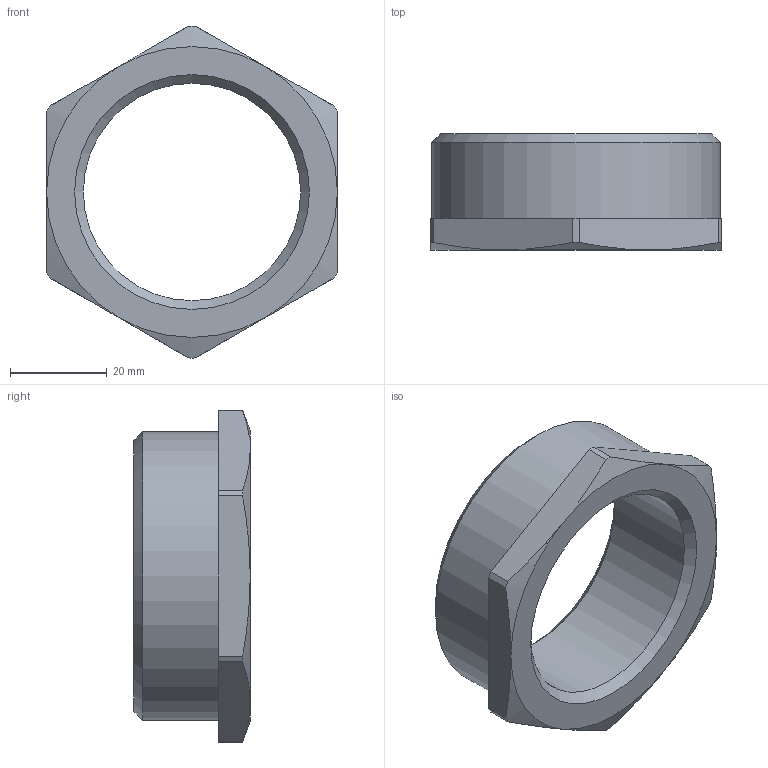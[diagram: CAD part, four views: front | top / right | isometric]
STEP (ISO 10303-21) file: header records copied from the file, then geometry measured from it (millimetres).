
FILE_DESCRIPTION(('STEP AP203'), '1');
FILE_NAME('ÂÐ.753128.043 - VTr.581.N.0908 Ôèò. ðåçüá', '2024-07-05T08:49:06', ('Boss'), (''), 'C3D Converter', 'C3D Toolkit', '');
FILE_SCHEMA(('CONFIG_CONTROL_DESIGN'));
Length unit declared in the file: millimetre
Products named in the file (1): ВР.753128.043
Bounding box: 60 x 24 x 68.5 mm (x, y, z)
Volume: 30279.3 mm3; surface area: 10484.9 mm2
Topology: 1 solids, 1 shells, 24 faces, 56 edges, 35 vertices
Faces by surface type: plane 9, cylinder 8, cone 7
Full cylindrical faces by diameter (mm): 44.846 x1, 59.614 x1
Entity records: 898 total; most frequent: CARTESIAN_POINT 332, DIRECTION 114, ORIENTED_EDGE 102, EDGE_CURVE 51, AXIS2_PLACEMENT_3D 48, VERTEX_POINT 35, EDGE_LOOP 32, ADVANCED_FACE 24
